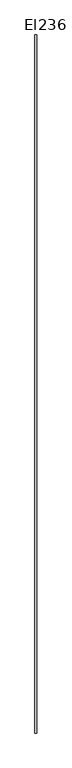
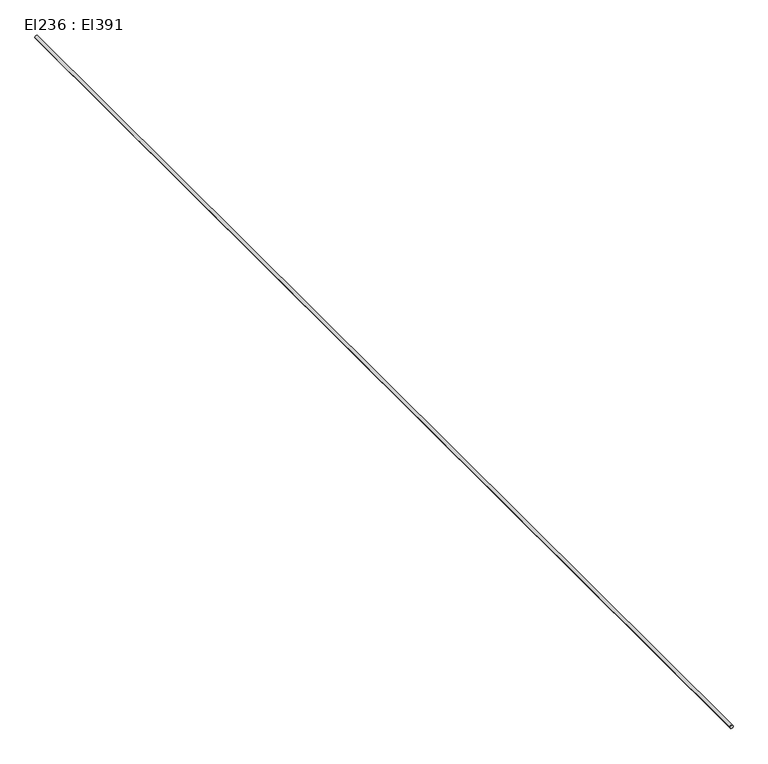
"""IFC4 building model written with IfcOpenShell, lengths in millimetres: cable carrier segment geometry, El236 : El391."""

from ifc_helpers import new_model, si_unit, point, frame, frame_2d, origin, place, context, project, spatial, circle_curve, trimmed, segment, composite_curve, outline, extrude, source, transform, mapped, element, save


def el236_el391_a32c4c02(model_context):
    return source(origin(), model_context, "Body", "SweptSolid", [
        extrude(outline(composite_curve([segment(trimmed(circle_curve(frame_2d((1500.0, 9926.7746511)), 9.5), [point((1500.0, 9917.2746511))], [point((1500.0, 9936.2746511))], False, "CARTESIAN"), True, "CONTINUOUS"), segment(trimmed(circle_curve(frame_2d((1500.0, 9926.7746511)), 9.5), [point((1500.0, 9936.2746511))], [point((1500.0, 9917.2746511))], False, "CARTESIAN"), True, "CONTINUOUS")], self_intersect=False)), frame((0.0, -7202.4378255, 0.0), z_axis=(0.0, 1.0, 0.0), x_axis=(0.0, 0.0, 1.0)), (0.0, 0.0, 1.0), 6706.35),
    ])


if __name__ == "__main__":
    model = new_model("IFC4")
    model_context = context("Model", 3, world=origin())
    ifc_project = project(units=[si_unit("LENGTHUNIT", "METRE", prefix="MILLI")], contexts=[model_context])
    site = spatial("IfcSite", under=ifc_project)
    building = spatial("IfcBuilding", under=site)
    placement = place(None, origin())
    el236_el391_shape = el236_el391_a32c4c02(model_context)
    element("IfcCableCarrierSegment", 1, ObjectType="El236 : El391", at=placement, inside=building, context=model_context, shape_type="MappedRepresentation", body=[
        mapped(el236_el391_shape, transform((0.0, 0.0, 0.0), x_axis=(1.0, 0.0, 0.0), y_axis=(0.0, 1.0, 0.0), z_axis=(0.0, 0.0, 1.0))),
    ])
    save(model, "model.ifc")
